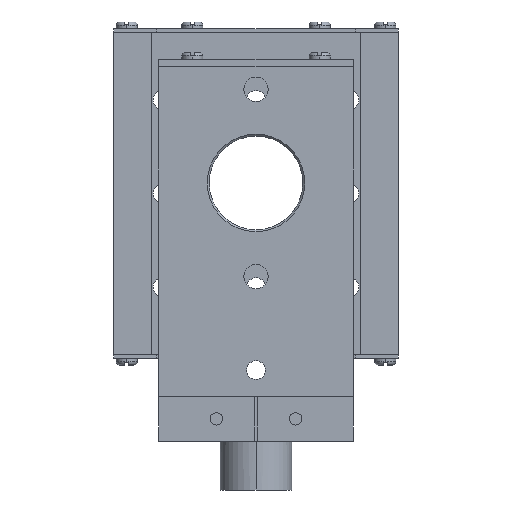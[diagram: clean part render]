
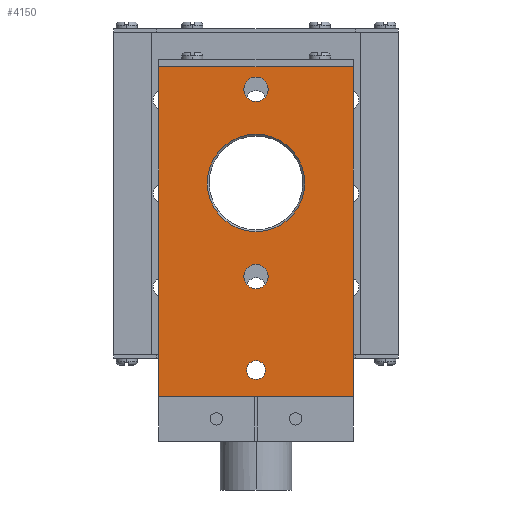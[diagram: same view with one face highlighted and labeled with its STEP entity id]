
A CAD part, left-side view. The second image highlights one B-rep face of the part: STEP entity #4150.
In plain terms, the highlighted planar face has unit normal (-1, 0, 0).
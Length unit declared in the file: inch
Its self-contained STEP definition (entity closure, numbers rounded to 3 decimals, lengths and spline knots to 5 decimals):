
#326=DIRECTION('',(0.,0.,1.));
#327=VECTOR('',#326,3.46457);
#328=CARTESIAN_POINT('',(-0.31496,-1.02362,0.));
#329=LINE('',#328,#327);
#342=DIRECTION('',(0.,-1.,0.));
#343=VECTOR('',#342,2.04724);
#344=CARTESIAN_POINT('',(-0.31496,1.02362,3.46457));
#345=LINE('',#344,#343);
#577=DIRECTION('',(0.,0.,1.));
#578=VECTOR('',#577,3.46457);
#579=CARTESIAN_POINT('',(-0.31496,1.02362,0.));
#580=LINE('',#579,#578);
#581=CARTESIAN_POINT('',(-0.31496,0.,0.27559));
#582=DIRECTION('',(1.,0.,0.));
#583=DIRECTION('',(0.,-1.,0.));
#584=AXIS2_PLACEMENT_3D('',#581,#582,#583);
#586=CARTESIAN_POINT('',(-0.31496,0.,0.27559));
#587=DIRECTION('',(1.,0.,0.));
#588=DIRECTION('',(0.,1.,0.));
#589=AXIS2_PLACEMENT_3D('',#586,#587,#588);
#591=CARTESIAN_POINT('',(-0.31496,0.,1.25984));
#592=DIRECTION('',(-1.,0.,0.));
#593=DIRECTION('',(0.,-1.,0.));
#594=AXIS2_PLACEMENT_3D('',#591,#592,#593);
#596=CARTESIAN_POINT('',(-0.31496,0.,1.25984));
#597=DIRECTION('',(-1.,0.,0.));
#598=DIRECTION('',(0.,1.,0.));
#599=AXIS2_PLACEMENT_3D('',#596,#597,#598);
#601=CARTESIAN_POINT('',(-0.31496,0.,3.22835));
#602=DIRECTION('',(-1.,0.,0.));
#603=DIRECTION('',(0.,-1.,0.));
#604=AXIS2_PLACEMENT_3D('',#601,#602,#603);
#606=CARTESIAN_POINT('',(-0.31496,0.,3.22835));
#607=DIRECTION('',(-1.,0.,0.));
#608=DIRECTION('',(0.,1.,0.));
#609=AXIS2_PLACEMENT_3D('',#606,#607,#608);
#611=CARTESIAN_POINT('',(-0.31496,0.,2.24409));
#612=DIRECTION('',(1.,0.,0.));
#613=DIRECTION('',(0.,-1.,0.));
#614=AXIS2_PLACEMENT_3D('',#611,#612,#613);
#616=CARTESIAN_POINT('',(-0.31496,0.,2.24409));
#617=DIRECTION('',(1.,0.,0.));
#618=DIRECTION('',(0.,1.,0.));
#619=AXIS2_PLACEMENT_3D('',#616,#617,#618);
#629=DIRECTION('',(0.,-1.,0.));
#630=VECTOR('',#629,2.04724);
#631=CARTESIAN_POINT('',(-0.31496,1.02362,0.));
#632=LINE('',#631,#630);
#2769=CARTESIAN_POINT('',(-0.31496,1.02362,0.));
#2770=CARTESIAN_POINT('',(-0.31496,-1.02362,0.));
#2771=VERTEX_POINT('',#2769);
#2772=VERTEX_POINT('',#2770);
#2773=CARTESIAN_POINT('',(-0.31496,1.02362,
3.46457));
#2774=CARTESIAN_POINT('',(-0.31496,-1.02362,
3.46457));
#2775=VERTEX_POINT('',#2773);
#2776=VERTEX_POINT('',#2774);
#2797=CARTESIAN_POINT('',(-0.31496,-0.09843,
0.27559));
#2798=CARTESIAN_POINT('',(-0.31496,0.09843,
0.27559));
#2799=VERTEX_POINT('',#2797);
#2800=VERTEX_POINT('',#2798);
#2805=CARTESIAN_POINT('',(-0.31496,-0.12795,
1.25984));
#2806=CARTESIAN_POINT('',(-0.31496,0.12795,
1.25984));
#2807=VERTEX_POINT('',#2805);
#2808=VERTEX_POINT('',#2806);
#2813=CARTESIAN_POINT('',(-0.31496,-0.12795,
3.22835));
#2814=CARTESIAN_POINT('',(-0.31496,0.12795,
3.22835));
#2815=VERTEX_POINT('',#2813);
#2816=VERTEX_POINT('',#2814);
#2873=CARTESIAN_POINT('',(-0.31496,-0.51181,
2.24409));
#2874=CARTESIAN_POINT('',(-0.31496,0.51181,
2.24409));
#2875=VERTEX_POINT('',#2873);
#2876=VERTEX_POINT('',#2874);
#4115=CARTESIAN_POINT('',(-0.31496,1.02362,0.));
#4116=DIRECTION('',(-1.,0.,0.));
#4117=DIRECTION('',(0.,-1.,0.));
#4118=AXIS2_PLACEMENT_3D('',#4115,#4116,#4117);
#4119=PLANE('',#4118);
#4121=ORIENTED_EDGE('',*,*,#4120,.F.);
#4122=ORIENTED_EDGE('',*,*,#3849,.T.);
#4123=ORIENTED_EDGE('',*,*,#3813,.T.);
#4124=ORIENTED_EDGE('',*,*,#3784,.F.);
#4125=EDGE_LOOP('',(#4121,#4122,#4123,#4124));
#4126=FACE_OUTER_BOUND('',#4125,.F.);
#4128=ORIENTED_EDGE('',*,*,#4127,.F.);
#4130=ORIENTED_EDGE('',*,*,#4129,.F.);
#4131=EDGE_LOOP('',(#4128,#4130));
#4132=FACE_BOUND('',#4131,.F.);
#4134=ORIENTED_EDGE('',*,*,#4133,.T.);
#4136=ORIENTED_EDGE('',*,*,#4135,.T.);
#4137=EDGE_LOOP('',(#4134,#4136));
#4138=FACE_BOUND('',#4137,.F.);
#4139=ORIENTED_EDGE('',*,*,#4105,.T.);
#4141=ORIENTED_EDGE('',*,*,#4140,.T.);
#4142=EDGE_LOOP('',(#4139,#4141));
#4143=FACE_BOUND('',#4142,.F.);
#4145=ORIENTED_EDGE('',*,*,#4144,.F.);
#4147=ORIENTED_EDGE('',*,*,#4146,.F.);
#4148=EDGE_LOOP('',(#4145,#4147));
#4149=FACE_BOUND('',#4148,.F.);
#4150=ADVANCED_FACE('',(#4126,#4132,#4138,#4143,#4149),#4119,.T.);
#585=CIRCLE('',#584,0.09843);
#590=CIRCLE('',#589,0.09843);
#595=CIRCLE('',#594,0.12795);
#600=CIRCLE('',#599,0.12795);
#605=CIRCLE('',#604,0.12795);
#610=CIRCLE('',#609,0.12795);
#615=CIRCLE('',#614,0.51181);
#620=CIRCLE('',#619,0.51181);
#3784=EDGE_CURVE('',#2772,#2776,#329,.T.);
#3813=EDGE_CURVE('',#2775,#2776,#345,.T.);
#3849=EDGE_CURVE('',#2771,#2775,#580,.T.);
#4105=EDGE_CURVE('',#2815,#2816,#605,.T.);
#4120=EDGE_CURVE('',#2771,#2772,#632,.T.);
#4127=EDGE_CURVE('',#2799,#2800,#585,.T.);
#4129=EDGE_CURVE('',#2800,#2799,#590,.T.);
#4133=EDGE_CURVE('',#2807,#2808,#595,.T.);
#4135=EDGE_CURVE('',#2808,#2807,#600,.T.);
#4140=EDGE_CURVE('',#2816,#2815,#610,.T.);
#4144=EDGE_CURVE('',#2875,#2876,#615,.T.);
#4146=EDGE_CURVE('',#2876,#2875,#620,.T.);
